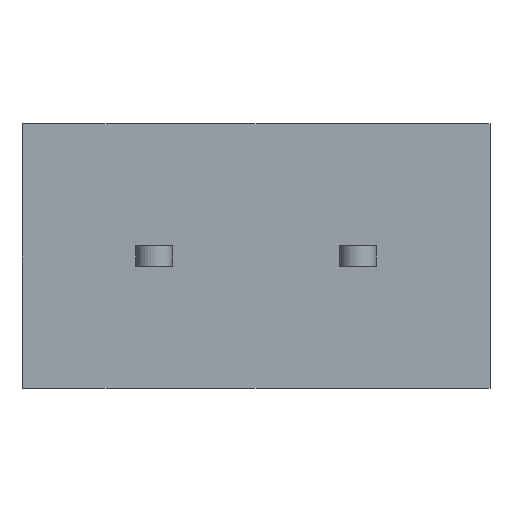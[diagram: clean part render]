
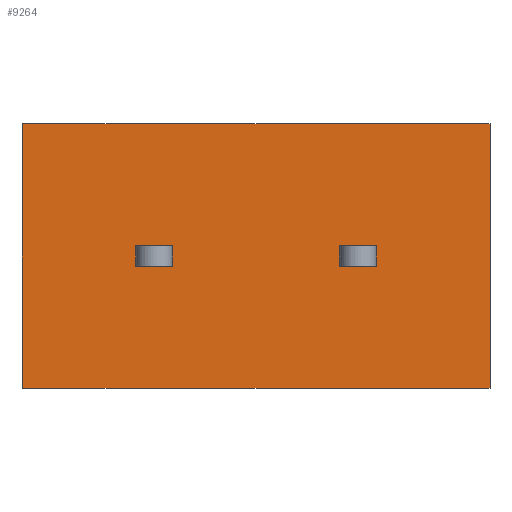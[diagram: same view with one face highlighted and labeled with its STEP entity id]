
A CAD part, front view. The second image highlights one B-rep face of the part: STEP entity #9264.
In plain terms, the highlighted planar face has unit normal (0, -1, 0).
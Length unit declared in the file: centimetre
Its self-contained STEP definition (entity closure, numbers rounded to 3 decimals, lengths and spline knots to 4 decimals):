
#534=VECTOR('',#10040,1.);
#538=VECTOR('',#10045,1.);
#549=VECTOR('',#10078,1.);
#551=VECTOR('',#10081,1.);
#981=VECTOR('',#10659,1.);
#1112=VECTOR('',#10947,1.);
#1120=VECTOR('',#10956,1.);
#1121=VECTOR('',#10957,1.);
#1122=VECTOR('',#10958,1.);
#1123=VECTOR('',#10959,1.);
#1124=VECTOR('',#10960,1.);
#1125=VECTOR('',#10961,1.);
#1608=LINE('',#11798,#534);
#1612=LINE('',#11807,#538);
#1623=LINE('',#11842,#549);
#1625=LINE('',#11846,#551);
#2055=LINE('',#13404,#981);
#2186=LINE('',#13801,#1112);
#2194=LINE('',#13818,#1120);
#2195=LINE('',#13821,#1121);
#2196=LINE('',#13823,#1122);
#2197=LINE('',#13825,#1123);
#2198=LINE('',#13826,#1124);
#2199=LINE('',#13827,#1125);
#2702=VERTEX_POINT('',#11799);
#2703=VERTEX_POINT('',#11800);
#2706=VERTEX_POINT('',#11808);
#2717=VERTEX_POINT('',#11843);
#3074=VERTEX_POINT('',#13402);
#3076=VERTEX_POINT('',#13405);
#3200=VERTEX_POINT('',#13802);
#3201=VERTEX_POINT('',#13803);
#3208=VERTEX_POINT('',#13819);
#3209=VERTEX_POINT('',#13820);
#3210=VERTEX_POINT('',#13822);
#3211=VERTEX_POINT('',#13824);
#3726=EDGE_CURVE('',#2702,#2703,#1608,.T.);
#3730=EDGE_CURVE('',#2706,#2702,#1612,.T.);
#3747=EDGE_CURVE('',#2717,#2706,#1623,.T.);
#3749=EDGE_CURVE('',#2703,#2717,#1625,.T.);
#4285=EDGE_CURVE('',#3076,#3074,#2055,.T.);
#4464=EDGE_CURVE('',#3200,#3201,#2186,.T.);
#4472=EDGE_CURVE('',#3208,#3209,#2194,.T.);
#4473=EDGE_CURVE('',#3210,#3208,#2195,.T.);
#4474=EDGE_CURVE('',#3211,#3210,#2196,.T.);
#4475=EDGE_CURVE('',#3209,#3211,#2197,.T.);
#4476=EDGE_CURVE('',#3201,#3076,#2198,.T.);
#4477=EDGE_CURVE('',#3200,#3074,#2199,.T.);
#6623=ORIENTED_EDGE('',*,*,#3730,.T.);
#6624=ORIENTED_EDGE('',*,*,#3726,.T.);
#6625=ORIENTED_EDGE('',*,*,#3749,.T.);
#6626=ORIENTED_EDGE('',*,*,#3747,.T.);
#6627=ORIENTED_EDGE('',*,*,#4472,.F.);
#6628=ORIENTED_EDGE('',*,*,#4473,.F.);
#6629=ORIENTED_EDGE('',*,*,#4474,.F.);
#6630=ORIENTED_EDGE('',*,*,#4475,.F.);
#6631=ORIENTED_EDGE('',*,*,#4476,.T.);
#6632=ORIENTED_EDGE('',*,*,#4285,.T.);
#6633=ORIENTED_EDGE('',*,*,#4477,.F.);
#6634=ORIENTED_EDGE('',*,*,#4464,.T.);
#8147=EDGE_LOOP('',(#6623,#6624,#6625,#6626));
#8148=EDGE_LOOP('',(#6627,#6628,#6629,#6630));
#8149=EDGE_LOOP('',(#6631,#6632,#6633,#6634));
#8723=FACE_BOUND('',#8147,.T.);
#8724=FACE_BOUND('',#8148,.T.);
#8725=FACE_BOUND('',#8149,.T.);
#9264=ADVANCED_FACE('',(#8723,#8724,#8725),#9712,.T.);
#9712=PLANE('',#15760);
#10040=DIRECTION('',(0.,0.,1.));
#10045=DIRECTION('',(-1.,0.,0.));
#10078=DIRECTION('',(0.,0.,-1.));
#10081=DIRECTION('',(1.,0.,0.));
#10659=DIRECTION('',(0.,0.,1.));
#10947=DIRECTION('',(0.,0.,-1.));
#10955=DIRECTION('',(0.,-1.,0.));
#10956=DIRECTION('',(1.,0.,0.));
#10957=DIRECTION('',(0.,0.,-1.));
#10958=DIRECTION('',(-1.,0.,0.));
#10959=DIRECTION('',(0.,0.,1.));
#10960=DIRECTION('',(1.,0.,0.));
#10961=DIRECTION('',(1.,0.,0.));
#11798=CARTESIAN_POINT('',(1.56,0.,-0.175));
#11799=CARTESIAN_POINT('',(1.56,0.,-0.05));
#11800=CARTESIAN_POINT('',(1.56,0.,0.05));
#11807=CARTESIAN_POINT('',(0.825,0.,-0.05));
#11808=CARTESIAN_POINT('',(1.74,0.,-0.05));
#11842=CARTESIAN_POINT('',(1.74,0.,-0.175));
#11843=CARTESIAN_POINT('',(1.74,0.,0.05));
#11846=CARTESIAN_POINT('',(0.825,0.,0.05));
#13402=CARTESIAN_POINT('',(2.3,0.,0.65));
#13404=CARTESIAN_POINT('',(2.3,0.,0.65));
#13405=CARTESIAN_POINT('',(2.3,0.,-0.65));
#13801=CARTESIAN_POINT('',(0.,0.,0.65));
#13802=CARTESIAN_POINT('',(0.,0.,0.65));
#13803=CARTESIAN_POINT('',(0.,0.,-0.65));
#13817=CARTESIAN_POINT('',(0.,0.,0.));
#13818=CARTESIAN_POINT('',(0.44,0.,-0.05));
#13819=CARTESIAN_POINT('',(0.56,0.,-0.05));
#13820=CARTESIAN_POINT('',(0.74,0.,-0.05));
#13821=CARTESIAN_POINT('',(0.56,0.,-0.175));
#13822=CARTESIAN_POINT('',(0.56,0.,0.05));
#13823=CARTESIAN_POINT('',(0.44,0.,0.05));
#13824=CARTESIAN_POINT('',(0.74,0.,0.05));
#13825=CARTESIAN_POINT('',(0.74,0.,-0.175));
#13826=CARTESIAN_POINT('',(0.,0.,-0.65));
#13827=CARTESIAN_POINT('',(0.,0.,0.65));
#15760=AXIS2_PLACEMENT_3D('',#13817,#10955,$);
